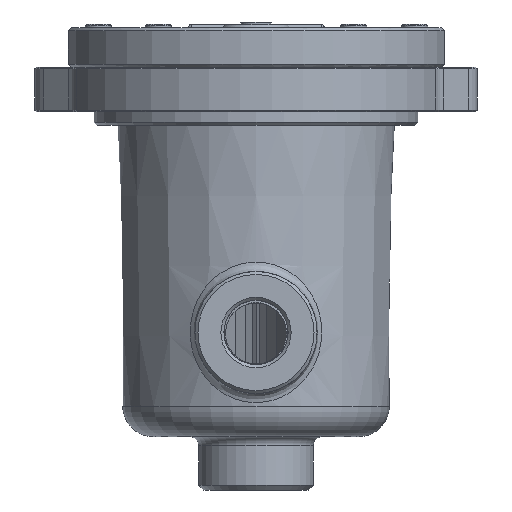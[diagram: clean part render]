
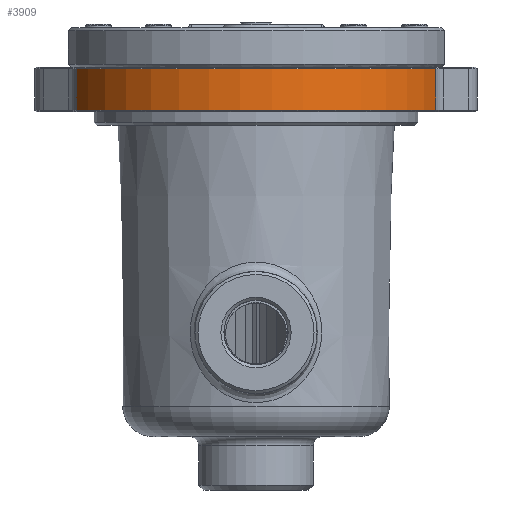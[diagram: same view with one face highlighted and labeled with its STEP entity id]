
A CAD part, left-side view. The second image highlights one B-rep face of the part: STEP entity #3909.
In plain terms, the highlighted cylindrical face has radius 62 mm (diameter 124 mm), a partial arc.
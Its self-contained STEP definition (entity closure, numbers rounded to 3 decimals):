
#3536 = VERTEX_POINT('',#3537);
#3537 = CARTESIAN_POINT('',(-19.234,-58.941,58.661));
#3552 = CYLINDRICAL_SURFACE('',#3553,10.);
#3553 = AXIS2_PLACEMENT_3D('',#3554,#3555,#3556);
#3554 = CARTESIAN_POINT('',(-22.337,-68.448,44.661));
#3555 = DIRECTION('',(0.,0.,1.));
#3556 = DIRECTION('',(0.707,0.707,0.));
#3579 = CONICAL_SURFACE('',#3580,62.,0.785);
#3580 = AXIS2_PLACEMENT_3D('',#3581,#3582,#3583);
#3581 = CARTESIAN_POINT('',(0.,0.,58.661));
#3582 = DIRECTION('',(0.,0.,-1.));
#3583 = DIRECTION('',(-0.31,-0.951,-0.));
#3645 = EDGE_CURVE('',#3536,#3646,#3648,.T.);
#3646 = VERTEX_POINT('',#3647);
#3647 = CARTESIAN_POINT('',(-19.234,58.941,58.661));
#3648 = SURFACE_CURVE('',#3649,(#3654,#3661),.PCURVE_S1.);
#3649 = CIRCLE('',#3650,62.);
#3650 = AXIS2_PLACEMENT_3D('',#3651,#3652,#3653);
#3651 = CARTESIAN_POINT('',(0.,0.,58.661));
#3652 = DIRECTION('',(0.,0.,-1.));
#3653 = DIRECTION('',(-0.31,-0.951,-0.));
#3654 = PCURVE('',#3579,#3655);
#3655 = DEFINITIONAL_REPRESENTATION('',(#3656),#3660);
#3656 = LINE('',#3657,#3658);
#3657 = CARTESIAN_POINT('',(0.,-0.));
#3658 = VECTOR('',#3659,1.);
#3659 = DIRECTION('',(1.,-0.));
#3660 = ( GEOMETRIC_REPRESENTATION_CONTEXT(2) 
PARAMETRIC_REPRESENTATION_CONTEXT() REPRESENTATION_CONTEXT('2D SPACE',''
  ) );
#3661 = PCURVE('',#3662,#3667);
#3662 = CYLINDRICAL_SURFACE('',#3663,62.);
#3663 = AXIS2_PLACEMENT_3D('',#3664,#3665,#3666);
#3664 = CARTESIAN_POINT('',(0.,0.,44.661));
#3665 = DIRECTION('',(-0.,-0.,-1.));
#3666 = DIRECTION('',(1.,0.,0.));
#3667 = DEFINITIONAL_REPRESENTATION('',(#3668),#3672);
#3668 = LINE('',#3669,#3670);
#3669 = CARTESIAN_POINT('',(-4.397,-14.));
#3670 = VECTOR('',#3671,1.);
#3671 = DIRECTION('',(1.,-0.));
#3672 = ( GEOMETRIC_REPRESENTATION_CONTEXT(2) 
PARAMETRIC_REPRESENTATION_CONTEXT() REPRESENTATION_CONTEXT('2D SPACE',''
  ) );
#3860 = VERTEX_POINT('',#3861);
#3861 = CARTESIAN_POINT('',(-19.234,-58.941,45.161));
#3888 = EDGE_CURVE('',#3860,#3536,#3889,.T.);
#3889 = SURFACE_CURVE('',#3890,(#3894,#3901),.PCURVE_S1.);
#3890 = LINE('',#3891,#3892);
#3891 = CARTESIAN_POINT('',(-19.234,-58.941,44.661));
#3892 = VECTOR('',#3893,1.);
#3893 = DIRECTION('',(0.,0.,1.));
#3894 = PCURVE('',#3552,#3895);
#3895 = DEFINITIONAL_REPRESENTATION('',(#3896),#3900);
#3896 = LINE('',#3897,#3898);
#3897 = CARTESIAN_POINT('',(0.47,0.));
#3898 = VECTOR('',#3899,1.);
#3899 = DIRECTION('',(0.,1.));
#3900 = ( GEOMETRIC_REPRESENTATION_CONTEXT(2) 
PARAMETRIC_REPRESENTATION_CONTEXT() REPRESENTATION_CONTEXT('2D SPACE',''
  ) );
#3901 = PCURVE('',#3662,#3902);
#3902 = DEFINITIONAL_REPRESENTATION('',(#3903),#3907);
#3903 = LINE('',#3904,#3905);
#3904 = CARTESIAN_POINT('',(-4.397,0.));
#3905 = VECTOR('',#3906,1.);
#3906 = DIRECTION('',(-0.,-1.));
#3907 = ( GEOMETRIC_REPRESENTATION_CONTEXT(2) 
PARAMETRIC_REPRESENTATION_CONTEXT() REPRESENTATION_CONTEXT('2D SPACE',''
  ) );
#3909 = ADVANCED_FACE('',(#3910),#3662,.T.);
#3910 = FACE_BOUND('',#3911,.F.);
#3911 = EDGE_LOOP('',(#3912,#3940,#3941,#3942));
#3912 = ORIENTED_EDGE('',*,*,#3913,.T.);
#3913 = EDGE_CURVE('',#3914,#3646,#3916,.T.);
#3914 = VERTEX_POINT('',#3915);
#3915 = CARTESIAN_POINT('',(-19.234,58.941,45.161));
#3916 = SURFACE_CURVE('',#3917,(#3921,#3928),.PCURVE_S1.);
#3917 = LINE('',#3918,#3919);
#3918 = CARTESIAN_POINT('',(-19.234,58.941,44.661));
#3919 = VECTOR('',#3920,1.);
#3920 = DIRECTION('',(0.,0.,1.));
#3921 = PCURVE('',#3662,#3922);
#3922 = DEFINITIONAL_REPRESENTATION('',(#3923),#3927);
#3923 = LINE('',#3924,#3925);
#3924 = CARTESIAN_POINT('',(-1.886,0.));
#3925 = VECTOR('',#3926,1.);
#3926 = DIRECTION('',(-0.,-1.));
#3927 = ( GEOMETRIC_REPRESENTATION_CONTEXT(2) 
PARAMETRIC_REPRESENTATION_CONTEXT() REPRESENTATION_CONTEXT('2D SPACE',''
  ) );
#3928 = PCURVE('',#3929,#3934);
#3929 = CYLINDRICAL_SURFACE('',#3930,10.);
#3930 = AXIS2_PLACEMENT_3D('',#3931,#3932,#3933);
#3931 = CARTESIAN_POINT('',(-22.337,68.448,44.661));
#3932 = DIRECTION('',(0.,0.,1.));
#3933 = DIRECTION('',(0.31,-0.951,0.));
#3934 = DEFINITIONAL_REPRESENTATION('',(#3935),#3939);
#3935 = LINE('',#3936,#3937);
#3936 = CARTESIAN_POINT('',(0.,0.));
#3937 = VECTOR('',#3938,1.);
#3938 = DIRECTION('',(0.,1.));
#3939 = ( GEOMETRIC_REPRESENTATION_CONTEXT(2) 
PARAMETRIC_REPRESENTATION_CONTEXT() REPRESENTATION_CONTEXT('2D SPACE',''
  ) );
#3940 = ORIENTED_EDGE('',*,*,#3645,.F.);
#3941 = ORIENTED_EDGE('',*,*,#3888,.F.);
#3942 = ORIENTED_EDGE('',*,*,#3943,.T.);
#3943 = EDGE_CURVE('',#3860,#3914,#3944,.T.);
#3944 = SURFACE_CURVE('',#3945,(#3950,#3957),.PCURVE_S1.);
#3945 = CIRCLE('',#3946,62.);
#3946 = AXIS2_PLACEMENT_3D('',#3947,#3948,#3949);
#3947 = CARTESIAN_POINT('',(0.,0.,45.161));
#3948 = DIRECTION('',(0.,0.,-1.));
#3949 = DIRECTION('',(-0.31,-0.951,-0.));
#3950 = PCURVE('',#3662,#3951);
#3951 = DEFINITIONAL_REPRESENTATION('',(#3952),#3956);
#3952 = LINE('',#3953,#3954);
#3953 = CARTESIAN_POINT('',(-4.397,-0.5));
#3954 = VECTOR('',#3955,1.);
#3955 = DIRECTION('',(1.,-0.));
#3956 = ( GEOMETRIC_REPRESENTATION_CONTEXT(2) 
PARAMETRIC_REPRESENTATION_CONTEXT() REPRESENTATION_CONTEXT('2D SPACE',''
  ) );
#3957 = PCURVE('',#3958,#3963);
#3958 = CONICAL_SURFACE('',#3959,62.,0.785);
#3959 = AXIS2_PLACEMENT_3D('',#3960,#3961,#3962);
#3960 = CARTESIAN_POINT('',(0.,0.,45.161));
#3961 = DIRECTION('',(0.,0.,1.));
#3962 = DIRECTION('',(-0.31,-0.951,-0.));
#3963 = DEFINITIONAL_REPRESENTATION('',(#3964),#3968);
#3964 = LINE('',#3965,#3966);
#3965 = CARTESIAN_POINT('',(-0.,-0.));
#3966 = VECTOR('',#3967,1.);
#3967 = DIRECTION('',(-1.,-0.));
#3968 = ( GEOMETRIC_REPRESENTATION_CONTEXT(2) 
PARAMETRIC_REPRESENTATION_CONTEXT() REPRESENTATION_CONTEXT('2D SPACE',''
  ) );
